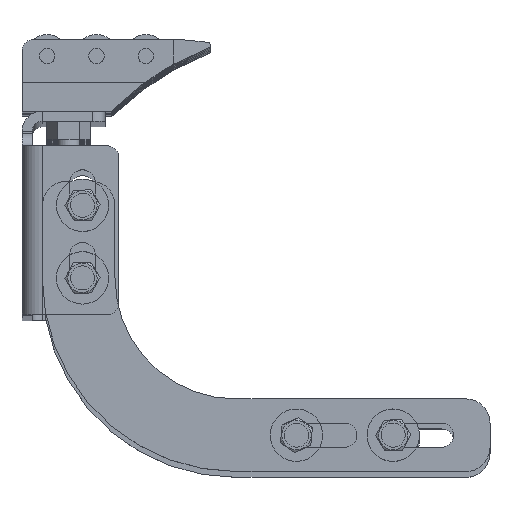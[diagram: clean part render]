
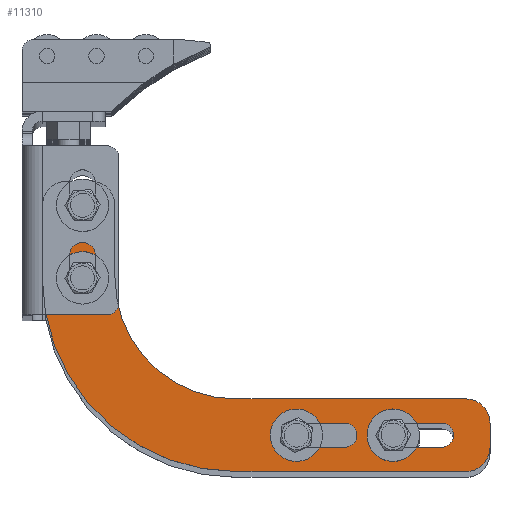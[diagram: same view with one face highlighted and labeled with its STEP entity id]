
A CAD part, top view. The second image highlights one B-rep face of the part: STEP entity #11310.
In plain terms, the highlighted planar face has unit normal (0, 0, 1) as drawn and (0, 0, -1) by its records, which use the part's own axes.
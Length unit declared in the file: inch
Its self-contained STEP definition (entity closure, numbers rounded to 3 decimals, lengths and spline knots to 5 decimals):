
#10756=DIRECTION('',(0.,-1.,0.));
#10757=VECTOR('',#10756,0.75);
#10758=CARTESIAN_POINT('',(0.,2.75,-0.25));
#10759=LINE('',#10758,#10757);
#10760=CARTESIAN_POINT('',(-0.25,2.75,-0.25));
#10761=DIRECTION('',(0.,0.,-1.));
#10762=DIRECTION('',(0.,1.,0.));
#10763=AXIS2_PLACEMENT_3D('',#10760,#10761,#10762);
#10765=DIRECTION('',(1.,0.,0.));
#10766=VECTOR('',#10765,0.25);
#10767=CARTESIAN_POINT('',(-0.5,3.,-0.25));
#10768=LINE('',#10767,#10766);
#10769=CARTESIAN_POINT('',(-0.5,2.75,-0.25));
#10770=DIRECTION('',(0.,0.,-1.));
#10771=DIRECTION('',(-1.,0.,0.));
#10772=AXIS2_PLACEMENT_3D('',#10769,#10770,#10771);
#10774=DIRECTION('',(0.,1.,0.));
#10775=VECTOR('',#10774,0.75);
#10776=CARTESIAN_POINT('',(-0.75,2.,-0.25));
#10777=LINE('',#10776,#10775);
#10778=CARTESIAN_POINT('',(-2.,2.,-0.25));
#10779=DIRECTION('',(0.,0.,1.));
#10780=DIRECTION('',(0.,-1.,0.));
#10781=AXIS2_PLACEMENT_3D('',#10778,#10779,#10780);
#10783=DIRECTION('',(1.,0.,0.));
#10784=VECTOR('',#10783,2.375);
#10785=CARTESIAN_POINT('',(-4.375,0.75,-0.25));
#10786=LINE('',#10785,#10784);
#10787=CARTESIAN_POINT('',(-4.375,0.5,-0.25));
#10788=DIRECTION('',(0.,0.,-1.));
#10789=DIRECTION('',(-1.,0.,0.));
#10790=AXIS2_PLACEMENT_3D('',#10787,#10788,#10789);
#10792=DIRECTION('',(0.,1.,0.));
#10793=VECTOR('',#10792,0.25);
#10794=CARTESIAN_POINT('',(-4.625,0.25,-0.25));
#10795=LINE('',#10794,#10793);
#10796=CARTESIAN_POINT('',(-4.375,0.25,-0.25));
#10797=DIRECTION('',(0.,0.,-1.));
#10798=DIRECTION('',(0.,-1.,0.));
#10799=AXIS2_PLACEMENT_3D('',#10796,#10797,#10798);
#10801=DIRECTION('',(-1.,0.,0.));
#10802=VECTOR('',#10801,2.375);
#10803=CARTESIAN_POINT('',(-2.,0.,-0.25));
#10804=LINE('',#10803,#10802);
#10805=CARTESIAN_POINT('',(-2.,2.,-0.25));
#10806=DIRECTION('',(0.,0.,-1.));
#10807=DIRECTION('',(1.,0.,0.));
#10808=AXIS2_PLACEMENT_3D('',#10805,#10806,#10807);
#10810=CARTESIAN_POINT('',(-0.4145,2.,-0.25));
#10811=DIRECTION('',(0.,0.,1.));
#10812=DIRECTION('',(1.,0.,0.));
#10813=AXIS2_PLACEMENT_3D('',#10810,#10811,#10812);
#10815=CARTESIAN_POINT('',(-0.4145,2.,-0.25));
#10816=DIRECTION('',(0.,0.,1.));
#10817=DIRECTION('',(-1.,0.,0.));
#10818=AXIS2_PLACEMENT_3D('',#10815,#10816,#10817);
#10820=CARTESIAN_POINT('',(-0.4145,2.75,-0.25));
#10821=DIRECTION('',(0.,0.,1.));
#10822=DIRECTION('',(1.,0.,0.));
#10823=AXIS2_PLACEMENT_3D('',#10820,#10821,#10822);
#10825=CARTESIAN_POINT('',(-0.4145,2.75,-0.25));
#10826=DIRECTION('',(0.,0.,1.));
#10827=DIRECTION('',(-1.,0.,0.));
#10828=AXIS2_PLACEMENT_3D('',#10825,#10826,#10827);
#10830=CARTESIAN_POINT('',(-2.625,0.375,-0.25));
#10831=DIRECTION('',(0.,0.,1.));
#10832=DIRECTION('',(1.,0.,0.));
#10833=AXIS2_PLACEMENT_3D('',#10830,#10831,#10832);
#10835=CARTESIAN_POINT('',(-2.625,0.375,-0.25));
#10836=DIRECTION('',(0.,0.,1.));
#10837=DIRECTION('',(0.,-1.,0.));
#10838=AXIS2_PLACEMENT_3D('',#10835,#10836,#10837);
#10840=CARTESIAN_POINT('',(-3.125,0.375,-0.25));
#10841=DIRECTION('',(0.,0.,1.));
#10842=DIRECTION('',(-1.,0.,0.));
#10843=AXIS2_PLACEMENT_3D('',#10840,#10841,#10842);
#10845=CARTESIAN_POINT('',(-3.125,0.375,-0.25));
#10846=DIRECTION('',(0.,0.,1.));
#10847=DIRECTION('',(0.,1.,0.));
#10848=AXIS2_PLACEMENT_3D('',#10845,#10846,#10847);
#10850=CARTESIAN_POINT('',(-3.625,0.375,-0.25));
#10851=DIRECTION('',(0.,0.,1.));
#10852=DIRECTION('',(1.,0.,0.));
#10853=AXIS2_PLACEMENT_3D('',#10850,#10851,#10852);
#10855=CARTESIAN_POINT('',(-3.625,0.375,-0.25));
#10856=DIRECTION('',(0.,0.,1.));
#10857=DIRECTION('',(0.,-1.,0.));
#10858=AXIS2_PLACEMENT_3D('',#10855,#10856,#10857);
#10860=CARTESIAN_POINT('',(-4.125,0.375,-0.25));
#10861=DIRECTION('',(0.,0.,1.));
#10862=DIRECTION('',(-1.,0.,0.));
#10863=AXIS2_PLACEMENT_3D('',#10860,#10861,#10862);
#10865=CARTESIAN_POINT('',(-4.125,0.375,-0.25));
#10866=DIRECTION('',(0.,0.,1.));
#10867=DIRECTION('',(0.,1.,0.));
#10868=AXIS2_PLACEMENT_3D('',#10865,#10866,#10867);
#11064=DIRECTION('',(1.,0.,0.));
#11065=VECTOR('',#11064,0.5);
#11066=CARTESIAN_POINT('',(-3.125,0.5,-0.25));
#11067=LINE('',#11066,#11065);
#11080=DIRECTION('',(-1.,0.,0.));
#11081=VECTOR('',#11080,0.5);
#11082=CARTESIAN_POINT('',(-2.625,0.25,-0.25));
#11083=LINE('',#11082,#11081);
#11092=DIRECTION('',(1.,0.,0.));
#11093=VECTOR('',#11092,0.5);
#11094=CARTESIAN_POINT('',(-4.125,0.5,-0.25));
#11095=LINE('',#11094,#11093);
#11108=DIRECTION('',(-1.,0.,0.));
#11109=VECTOR('',#11108,0.5);
#11110=CARTESIAN_POINT('',(-3.625,0.25,-0.25));
#11111=LINE('',#11110,#11109);
#11112=CARTESIAN_POINT('',(-2.5,0.375,-0.25));
#11113=CARTESIAN_POINT('',(-2.625,0.5,-0.25));
#11114=VERTEX_POINT('',#11112);
#11115=VERTEX_POINT('',#11113);
#11117=CARTESIAN_POINT('',(-0.51293,2.,-0.25));
#11119=VERTEX_POINT('',#11117);
#11126=CARTESIAN_POINT('',(-3.5,0.375,-0.25));
#11127=CARTESIAN_POINT('',(-3.625,0.5,-0.25));
#11128=VERTEX_POINT('',#11126);
#11129=VERTEX_POINT('',#11127);
#11131=CARTESIAN_POINT('',(-0.31607,2.75,-0.25));
#11133=VERTEX_POINT('',#11131);
#11140=CARTESIAN_POINT('',(-3.625,0.25,-0.25));
#11141=VERTEX_POINT('',#11140);
#11147=CARTESIAN_POINT('',(0.,2.75,-0.25));
#11149=VERTEX_POINT('',#11147);
#11150=CARTESIAN_POINT('',(-3.125,0.5,-0.25));
#11152=VERTEX_POINT('',#11150);
#11155=CARTESIAN_POINT('',(-4.375,0.75,-0.25));
#11157=VERTEX_POINT('',#11155);
#11160=CARTESIAN_POINT('',(-2.,0.,-0.25));
#11161=CARTESIAN_POINT('',(-4.375,0.,-0.25));
#11162=VERTEX_POINT('',#11160);
#11163=VERTEX_POINT('',#11161);
#11166=CARTESIAN_POINT('',(-0.25,3.,-0.25));
#11167=VERTEX_POINT('',#11166);
#11168=CARTESIAN_POINT('',(-2.,0.75,-0.25));
#11169=VERTEX_POINT('',#11168);
#11172=CARTESIAN_POINT('',(-4.625,0.5,-0.25));
#11173=VERTEX_POINT('',#11172);
#11174=CARTESIAN_POINT('',(0.,2.,-0.25));
#11175=VERTEX_POINT('',#11174);
#11176=CARTESIAN_POINT('',(-4.625,0.25,-0.25));
#11177=VERTEX_POINT('',#11176);
#11180=CARTESIAN_POINT('',(-2.625,0.25,-0.25));
#11181=VERTEX_POINT('',#11180);
#11183=CARTESIAN_POINT('',(-0.75,2.,-0.25));
#11185=VERTEX_POINT('',#11183);
#11186=CARTESIAN_POINT('',(-0.31607,2.,-0.25));
#11187=VERTEX_POINT('',#11186);
#11188=CARTESIAN_POINT('',(-0.51293,2.75,-0.25));
#11189=VERTEX_POINT('',#11188);
#11190=CARTESIAN_POINT('',(-0.75,2.75,-0.25));
#11192=VERTEX_POINT('',#11190);
#11199=CARTESIAN_POINT('',(-3.125,0.25,-0.25));
#11201=VERTEX_POINT('',#11199);
#11204=CARTESIAN_POINT('',(-4.125,0.5,-0.25));
#11205=VERTEX_POINT('',#11204);
#11206=CARTESIAN_POINT('',(-4.125,0.25,-0.25));
#11207=VERTEX_POINT('',#11206);
#11211=CARTESIAN_POINT('',(-0.5,3.,-0.25));
#11213=VERTEX_POINT('',#11211);
#11216=CARTESIAN_POINT('',(-3.25,0.375,-0.25));
#11217=VERTEX_POINT('',#11216);
#11220=CARTESIAN_POINT('',(-4.25,0.375,-0.25));
#11221=VERTEX_POINT('',#11220);
#11240=CARTESIAN_POINT('',(0.,0.,-0.25));
#11241=DIRECTION('',(0.,0.,1.));
#11242=DIRECTION('',(1.,0.,0.));
#11243=AXIS2_PLACEMENT_3D('',#11240,#11241,#11242);
#11244=PLANE('',#11243);
#11246=ORIENTED_EDGE('',*,*,#11245,.F.);
#11248=ORIENTED_EDGE('',*,*,#11247,.F.);
#11250=ORIENTED_EDGE('',*,*,#11249,.F.);
#11251=ORIENTED_EDGE('',*,*,#11229,.F.);
#11253=ORIENTED_EDGE('',*,*,#11252,.F.);
#11255=ORIENTED_EDGE('',*,*,#11254,.F.);
#11257=ORIENTED_EDGE('',*,*,#11256,.F.);
#11259=ORIENTED_EDGE('',*,*,#11258,.F.);
#11261=ORIENTED_EDGE('',*,*,#11260,.F.);
#11263=ORIENTED_EDGE('',*,*,#11262,.F.);
#11265=ORIENTED_EDGE('',*,*,#11264,.F.);
#11267=ORIENTED_EDGE('',*,*,#11266,.F.);
#11268=EDGE_LOOP('',(#11246,#11248,#11250,#11251,#11253,#11255,#11257,#11259,
#11261,#11263,#11265,#11267));
#11269=FACE_OUTER_BOUND('',#11268,.F.);
#11271=ORIENTED_EDGE('',*,*,#11270,.F.);
#11273=ORIENTED_EDGE('',*,*,#11272,.F.);
#11274=EDGE_LOOP('',(#11271,#11273));
#11275=FACE_BOUND('',#11274,.F.);
#11277=ORIENTED_EDGE('',*,*,#11276,.F.);
#11279=ORIENTED_EDGE('',*,*,#11278,.F.);
#11280=EDGE_LOOP('',(#11277,#11279));
#11281=FACE_BOUND('',#11280,.F.);
#11283=ORIENTED_EDGE('',*,*,#11282,.T.);
#11285=ORIENTED_EDGE('',*,*,#11284,.F.);
#11287=ORIENTED_EDGE('',*,*,#11286,.F.);
#11289=ORIENTED_EDGE('',*,*,#11288,.T.);
#11291=ORIENTED_EDGE('',*,*,#11290,.F.);
#11293=ORIENTED_EDGE('',*,*,#11292,.F.);
#11294=EDGE_LOOP('',(#11283,#11285,#11287,#11289,#11291,#11293));
#11295=FACE_BOUND('',#11294,.F.);
#11297=ORIENTED_EDGE('',*,*,#11296,.T.);
#11299=ORIENTED_EDGE('',*,*,#11298,.F.);
#11301=ORIENTED_EDGE('',*,*,#11300,.F.);
#11303=ORIENTED_EDGE('',*,*,#11302,.T.);
#11305=ORIENTED_EDGE('',*,*,#11304,.F.);
#11307=ORIENTED_EDGE('',*,*,#11306,.F.);
#11308=EDGE_LOOP('',(#11297,#11299,#11301,#11303,#11305,#11307));
#11309=FACE_BOUND('',#11308,.F.);
#10764=CIRCLE('',#10763,0.25);
#10773=CIRCLE('',#10772,0.25);
#10782=CIRCLE('',#10781,1.25);
#10791=CIRCLE('',#10790,0.25);
#10800=CIRCLE('',#10799,0.25);
#10809=CIRCLE('',#10808,2.);
#10814=CIRCLE('',#10813,0.09843);
#10819=CIRCLE('',#10818,0.09843);
#10824=CIRCLE('',#10823,0.09843);
#10829=CIRCLE('',#10828,0.09843);
#10834=CIRCLE('',#10833,0.125);
#10839=CIRCLE('',#10838,0.125);
#10844=CIRCLE('',#10843,0.125);
#10849=CIRCLE('',#10848,0.125);
#10854=CIRCLE('',#10853,0.125);
#10859=CIRCLE('',#10858,0.125);
#10864=CIRCLE('',#10863,0.125);
#10869=CIRCLE('',#10868,0.125);
#11229=EDGE_CURVE('',#11192,#11213,#10773,.T.);
#11245=EDGE_CURVE('',#11149,#11175,#10759,.T.);
#11247=EDGE_CURVE('',#11167,#11149,#10764,.T.);
#11249=EDGE_CURVE('',#11213,#11167,#10768,.T.);
#11252=EDGE_CURVE('',#11185,#11192,#10777,.T.);
#11254=EDGE_CURVE('',#11169,#11185,#10782,.T.);
#11256=EDGE_CURVE('',#11157,#11169,#10786,.T.);
#11258=EDGE_CURVE('',#11173,#11157,#10791,.T.);
#11260=EDGE_CURVE('',#11177,#11173,#10795,.T.);
#11262=EDGE_CURVE('',#11163,#11177,#10800,.T.);
#11264=EDGE_CURVE('',#11162,#11163,#10804,.T.);
#11266=EDGE_CURVE('',#11175,#11162,#10809,.T.);
#11270=EDGE_CURVE('',#11187,#11119,#10814,.T.);
#11272=EDGE_CURVE('',#11119,#11187,#10819,.T.);
#11276=EDGE_CURVE('',#11133,#11189,#10824,.T.);
#11278=EDGE_CURVE('',#11189,#11133,#10829,.T.);
#11282=EDGE_CURVE('',#11152,#11115,#11067,.T.);
#11284=EDGE_CURVE('',#11114,#11115,#10834,.T.);
#11286=EDGE_CURVE('',#11181,#11114,#10839,.T.);
#11288=EDGE_CURVE('',#11181,#11201,#11083,.T.);
#11290=EDGE_CURVE('',#11217,#11201,#10844,.T.);
#11292=EDGE_CURVE('',#11152,#11217,#10849,.T.);
#11296=EDGE_CURVE('',#11205,#11129,#11095,.T.);
#11298=EDGE_CURVE('',#11128,#11129,#10854,.T.);
#11300=EDGE_CURVE('',#11141,#11128,#10859,.T.);
#11302=EDGE_CURVE('',#11141,#11207,#11111,.T.);
#11304=EDGE_CURVE('',#11221,#11207,#10864,.T.);
#11306=EDGE_CURVE('',#11205,#11221,#10869,.T.);
#11310=ADVANCED_FACE('',(#11269,#11275,#11281,#11295,#11309),#11244,.F.);
